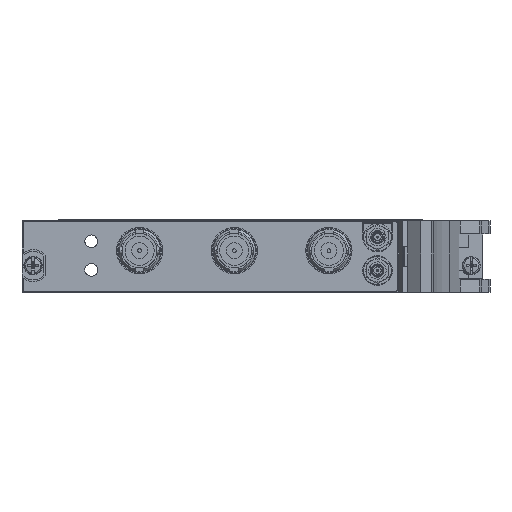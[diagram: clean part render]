
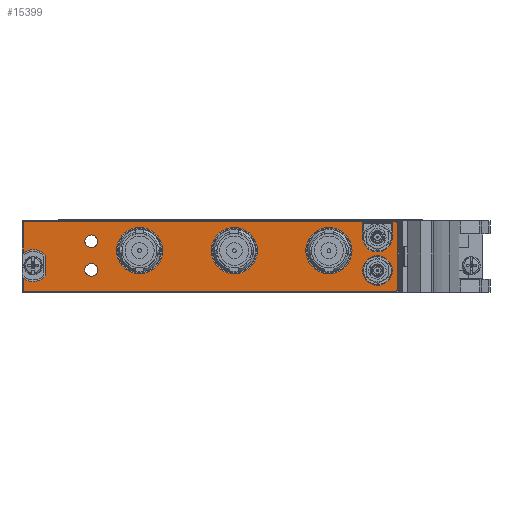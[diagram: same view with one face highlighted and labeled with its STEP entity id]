
A CAD part, left-side view. The second image highlights one B-rep face of the part: STEP entity #15399.
In plain terms, the highlighted planar face has unit normal (-1, 0, 0).
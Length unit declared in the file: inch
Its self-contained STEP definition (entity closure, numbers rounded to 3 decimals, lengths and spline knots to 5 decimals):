
#326=CARTESIAN_POINT('',(-5.677,-1.276,0.514));
#327=DIRECTION('',(-1.,0.,0.));
#328=DIRECTION('',(0.,1.,0.));
#329=AXIS2_PLACEMENT_3D('',#326,#327,#328);
#331=DIRECTION('',(0.,0.,-1.));
#332=VECTOR('',#331,0.171);
#333=CARTESIAN_POINT('',(-5.677,-1.439,0.685));
#334=LINE('',#333,#332);
#335=DIRECTION('',(0.,1.,0.));
#336=VECTOR('',#335,0.0358);
#337=CARTESIAN_POINT('',(-5.677,-1.4748,0.685));
#338=LINE('',#337,#336);
#339=CARTESIAN_POINT('',(-5.677,-1.4748,0.665));
#340=DIRECTION('',(-1.,0.,0.));
#341=DIRECTION('',(0.,-1.,0.));
#342=AXIS2_PLACEMENT_3D('',#339,#340,#341);
#344=DIRECTION('',(0.,0.,1.));
#345=VECTOR('',#344,0.728);
#346=CARTESIAN_POINT('',(-5.677,-1.4948,-0.063));
#347=LINE('',#346,#345);
#348=CARTESIAN_POINT('',(-5.677,-1.4748,-0.063));
#349=DIRECTION('',(-1.,0.,0.));
#350=DIRECTION('',(0.,0.,-1.));
#351=AXIS2_PLACEMENT_3D('',#348,#349,#350);
#353=DIRECTION('',(0.,-1.,0.));
#354=VECTOR('',#353,4.07);
#355=CARTESIAN_POINT('',(-5.677,2.5952,-0.083));
#356=LINE('',#355,#354);
#357=CARTESIAN_POINT('',(-5.677,2.5952,-0.063));
#358=DIRECTION('',(-1.,0.,0.));
#359=DIRECTION('',(0.,1.,0.));
#360=AXIS2_PLACEMENT_3D('',#357,#358,#359);
#362=DIRECTION('',(0.,0.,-1.));
#363=VECTOR('',#362,0.1263);
#364=CARTESIAN_POINT('',(-5.677,2.6152,0.0633));
#365=LINE('',#364,#363);
#366=CARTESIAN_POINT('',(-5.677,2.5072,0.201));
#367=DIRECTION('',(1.,0.,0.));
#368=DIRECTION('',(0.,-0.76,-0.65));
#369=AXIS2_PLACEMENT_3D('',#366,#367,#368);
#371=DIRECTION('',(0.,0.,-1.));
#372=VECTOR('',#371,0.22747);
#373=CARTESIAN_POINT('',(-5.677,2.3742,0.31474));
#374=LINE('',#373,#372);
#375=CARTESIAN_POINT('',(-5.677,2.5072,0.201));
#376=DIRECTION('',(1.,0.,0.));
#377=DIRECTION('',(0.,0.617,0.787));
#378=AXIS2_PLACEMENT_3D('',#375,#376,#377);
#380=DIRECTION('',(0.,0.,-1.));
#381=VECTOR('',#380,0.3263);
#382=CARTESIAN_POINT('',(-5.677,2.6152,0.665));
#383=LINE('',#382,#381);
#384=CARTESIAN_POINT('',(-5.677,2.5952,0.665));
#385=DIRECTION('',(-1.,0.,0.));
#386=DIRECTION('',(0.,0.,1.));
#387=AXIS2_PLACEMENT_3D('',#384,#385,#386);
#389=DIRECTION('',(0.,1.,0.));
#390=VECTOR('',#389,3.7082);
#391=CARTESIAN_POINT('',(-5.677,-1.113,0.685));
#392=LINE('',#391,#390);
#393=DIRECTION('',(0.,0.,-1.));
#394=VECTOR('',#393,0.171);
#395=CARTESIAN_POINT('',(-5.677,-1.113,0.685));
#396=LINE('',#395,#394);
#397=CARTESIAN_POINT('',(-5.677,-0.743,0.36526));
#398=DIRECTION('',(-1.,0.,0.));
#399=DIRECTION('',(0.,1.,0.));
#400=AXIS2_PLACEMENT_3D('',#397,#398,#399);
#402=CARTESIAN_POINT('',(-5.677,-0.743,0.36526));
#403=DIRECTION('',(-1.,0.,0.));
#404=DIRECTION('',(0.,-1.,0.));
#405=AXIS2_PLACEMENT_3D('',#402,#403,#404);
#407=CARTESIAN_POINT('',(-5.677,0.297,0.36526));
#408=DIRECTION('',(-1.,0.,0.));
#409=DIRECTION('',(0.,1.,0.));
#410=AXIS2_PLACEMENT_3D('',#407,#408,#409);
#412=CARTESIAN_POINT('',(-5.677,0.297,0.36526));
#413=DIRECTION('',(-1.,0.,0.));
#414=DIRECTION('',(0.,-1.,0.));
#415=AXIS2_PLACEMENT_3D('',#412,#413,#414);
#417=CARTESIAN_POINT('',(-5.677,1.337,0.36526));
#418=DIRECTION('',(-1.,0.,0.));
#419=DIRECTION('',(0.,1.,0.));
#420=AXIS2_PLACEMENT_3D('',#417,#418,#419);
#422=CARTESIAN_POINT('',(-5.677,1.337,0.36526));
#423=DIRECTION('',(-1.,0.,0.));
#424=DIRECTION('',(0.,-1.,0.));
#425=AXIS2_PLACEMENT_3D('',#422,#423,#424);
#427=CARTESIAN_POINT('',(-5.677,-1.276,0.147));
#428=DIRECTION('',(-1.,0.,0.));
#429=DIRECTION('',(0.,0.,-1.));
#430=AXIS2_PLACEMENT_3D('',#427,#428,#429);
#432=CARTESIAN_POINT('',(-5.677,-1.276,0.147));
#433=DIRECTION('',(-1.,0.,0.));
#434=DIRECTION('',(0.,0.,1.));
#435=AXIS2_PLACEMENT_3D('',#432,#433,#434);
#437=CARTESIAN_POINT('',(-5.677,1.8682,0.154));
#438=DIRECTION('',(-1.,0.,0.));
#439=DIRECTION('',(0.,0.,1.));
#440=AXIS2_PLACEMENT_3D('',#437,#438,#439);
#442=CARTESIAN_POINT('',(-5.677,1.8682,0.154));
#443=DIRECTION('',(-1.,0.,0.));
#444=DIRECTION('',(0.,0.,-1.));
#445=AXIS2_PLACEMENT_3D('',#442,#443,#444);
#447=CARTESIAN_POINT('',(-5.677,1.8682,0.468));
#448=DIRECTION('',(-1.,0.,0.));
#449=DIRECTION('',(0.,0.,1.));
#450=AXIS2_PLACEMENT_3D('',#447,#448,#449);
#452=CARTESIAN_POINT('',(-5.677,1.8682,0.468));
#453=DIRECTION('',(-1.,0.,0.));
#454=DIRECTION('',(0.,0.,-1.));
#455=AXIS2_PLACEMENT_3D('',#452,#453,#454);
#14312=CARTESIAN_POINT('',(-5.677,2.5952,0.685));
#14313=CARTESIAN_POINT('',(-5.677,2.6152,0.665));
#14314=VERTEX_POINT('',#14312);
#14315=VERTEX_POINT('',#14313);
#14316=CARTESIAN_POINT('',(-5.677,2.6152,0.3387));
#14317=VERTEX_POINT('',#14316);
#14318=CARTESIAN_POINT('',(-5.677,2.3742,0.31474));
#14319=VERTEX_POINT('',#14318);
#14320=CARTESIAN_POINT('',(-5.677,2.3742,0.08726));
#14321=VERTEX_POINT('',#14320);
#14322=CARTESIAN_POINT('',(-5.677,2.6152,0.0633));
#14323=VERTEX_POINT('',#14322);
#14324=CARTESIAN_POINT('',(-5.677,2.6152,-0.063));
#14325=VERTEX_POINT('',#14324);
#14326=CARTESIAN_POINT('',(-5.677,2.5952,-0.083));
#14327=VERTEX_POINT('',#14326);
#14328=CARTESIAN_POINT('',(-5.677,-1.4748,-0.083));
#14329=VERTEX_POINT('',#14328);
#14330=CARTESIAN_POINT('',(-5.677,-1.4948,-0.063));
#14331=VERTEX_POINT('',#14330);
#14332=CARTESIAN_POINT('',(-5.677,-1.4948,0.665));
#14333=VERTEX_POINT('',#14332);
#14334=CARTESIAN_POINT('',(-5.677,-1.4748,0.685));
#14335=VERTEX_POINT('',#14334);
#14340=CARTESIAN_POINT('',(-5.677,-0.489,0.36526));
#14341=CARTESIAN_POINT('',(-5.677,-0.997,0.36526));
#14342=VERTEX_POINT('',#14340);
#14343=VERTEX_POINT('',#14341);
#14344=CARTESIAN_POINT('',(-5.677,0.551,0.36526));
#14345=CARTESIAN_POINT('',(-5.677,0.043,0.36526));
#14346=VERTEX_POINT('',#14344);
#14347=VERTEX_POINT('',#14345);
#14348=CARTESIAN_POINT('',(-5.677,1.591,0.36526));
#14349=CARTESIAN_POINT('',(-5.677,1.083,0.36526));
#14350=VERTEX_POINT('',#14348);
#14351=VERTEX_POINT('',#14349);
#14352=CARTESIAN_POINT('',(-5.677,-1.113,0.514));
#14353=CARTESIAN_POINT('',(-5.677,-1.439,0.514));
#14354=VERTEX_POINT('',#14352);
#14355=VERTEX_POINT('',#14353);
#14356=CARTESIAN_POINT('',(-5.677,-1.439,0.685));
#14357=VERTEX_POINT('',#14356);
#14358=CARTESIAN_POINT('',(-5.677,-1.113,0.685));
#14359=VERTEX_POINT('',#14358);
#14360=CARTESIAN_POINT('',(-5.677,-1.276,-0.016));
#14361=CARTESIAN_POINT('',(-5.677,-1.276,0.31));
#14362=VERTEX_POINT('',#14360);
#14363=VERTEX_POINT('',#14361);
#14368=CARTESIAN_POINT('',(-5.677,1.8682,0.224));
#14369=CARTESIAN_POINT('',(-5.677,1.8682,0.084));
#14370=VERTEX_POINT('',#14368);
#14371=VERTEX_POINT('',#14369);
#14372=CARTESIAN_POINT('',(-5.677,1.8682,0.538));
#14373=CARTESIAN_POINT('',(-5.677,1.8682,0.398));
#14374=VERTEX_POINT('',#14372);
#14375=VERTEX_POINT('',#14373);
#15326=CARTESIAN_POINT('',(-5.677,2.5072,0.201));
#15327=DIRECTION('',(-1.,0.,0.));
#15328=DIRECTION('',(0.,0.,1.));
#15329=AXIS2_PLACEMENT_3D('',#15326,#15327,#15328);
#15330=PLANE('',#15329);
#15332=ORIENTED_EDGE('',*,*,#15331,.T.);
#15334=ORIENTED_EDGE('',*,*,#15333,.F.);
#15336=ORIENTED_EDGE('',*,*,#15335,.F.);
#15338=ORIENTED_EDGE('',*,*,#15337,.F.);
#15340=ORIENTED_EDGE('',*,*,#15339,.F.);
#15342=ORIENTED_EDGE('',*,*,#15341,.F.);
#15344=ORIENTED_EDGE('',*,*,#15343,.F.);
#15346=ORIENTED_EDGE('',*,*,#15345,.F.);
#15348=ORIENTED_EDGE('',*,*,#15347,.F.);
#15350=ORIENTED_EDGE('',*,*,#15349,.F.);
#15352=ORIENTED_EDGE('',*,*,#15351,.F.);
#15354=ORIENTED_EDGE('',*,*,#15353,.F.);
#15356=ORIENTED_EDGE('',*,*,#15355,.F.);
#15358=ORIENTED_EDGE('',*,*,#15357,.F.);
#15360=ORIENTED_EDGE('',*,*,#15359,.F.);
#15362=ORIENTED_EDGE('',*,*,#15361,.T.);
#15363=EDGE_LOOP('',(#15332,#15334,#15336,#15338,#15340,#15342,#15344,#15346,
#15348,#15350,#15352,#15354,#15356,#15358,#15360,#15362));
#15364=FACE_OUTER_BOUND('',#15363,.F.);
#15365=ORIENTED_EDGE('',*,*,#15306,.T.);
#15366=ORIENTED_EDGE('',*,*,#15320,.T.);
#15367=EDGE_LOOP('',(#15365,#15366));
#15368=FACE_BOUND('',#15367,.F.);
#15370=ORIENTED_EDGE('',*,*,#15369,.T.);
#15372=ORIENTED_EDGE('',*,*,#15371,.T.);
#15373=EDGE_LOOP('',(#15370,#15372));
#15374=FACE_BOUND('',#15373,.F.);
#15376=ORIENTED_EDGE('',*,*,#15375,.T.);
#15378=ORIENTED_EDGE('',*,*,#15377,.T.);
#15379=EDGE_LOOP('',(#15376,#15378));
#15380=FACE_BOUND('',#15379,.F.);
#15382=ORIENTED_EDGE('',*,*,#15381,.T.);
#15384=ORIENTED_EDGE('',*,*,#15383,.T.);
#15385=EDGE_LOOP('',(#15382,#15384));
#15386=FACE_BOUND('',#15385,.F.);
#15388=ORIENTED_EDGE('',*,*,#15387,.T.);
#15390=ORIENTED_EDGE('',*,*,#15389,.T.);
#15391=EDGE_LOOP('',(#15388,#15390));
#15392=FACE_BOUND('',#15391,.F.);
#15394=ORIENTED_EDGE('',*,*,#15393,.T.);
#15396=ORIENTED_EDGE('',*,*,#15395,.T.);
#15397=EDGE_LOOP('',(#15394,#15396));
#15398=FACE_BOUND('',#15397,.F.);
#15399=ADVANCED_FACE('',(#15364,#15368,#15374,#15380,#15386,#15392,#15398),
#15330,.T.);
#330=CIRCLE('',#329,0.163);
#343=CIRCLE('',#342,0.02);
#352=CIRCLE('',#351,0.02);
#361=CIRCLE('',#360,0.02);
#370=CIRCLE('',#369,0.175);
#379=CIRCLE('',#378,0.175);
#388=CIRCLE('',#387,0.02);
#401=CIRCLE('',#400,0.254);
#406=CIRCLE('',#405,0.254);
#411=CIRCLE('',#410,0.254);
#416=CIRCLE('',#415,0.254);
#421=CIRCLE('',#420,0.254);
#426=CIRCLE('',#425,0.254);
#431=CIRCLE('',#430,0.163);
#436=CIRCLE('',#435,0.163);
#441=CIRCLE('',#440,0.07);
#446=CIRCLE('',#445,0.07);
#451=CIRCLE('',#450,0.07);
#456=CIRCLE('',#455,0.07);
#15306=EDGE_CURVE('',#14342,#14343,#401,.T.);
#15320=EDGE_CURVE('',#14343,#14342,#406,.T.);
#15331=EDGE_CURVE('',#14354,#14355,#330,.T.);
#15333=EDGE_CURVE('',#14357,#14355,#334,.T.);
#15335=EDGE_CURVE('',#14335,#14357,#338,.T.);
#15337=EDGE_CURVE('',#14333,#14335,#343,.T.);
#15339=EDGE_CURVE('',#14331,#14333,#347,.T.);
#15341=EDGE_CURVE('',#14329,#14331,#352,.T.);
#15343=EDGE_CURVE('',#14327,#14329,#356,.T.);
#15345=EDGE_CURVE('',#14325,#14327,#361,.T.);
#15347=EDGE_CURVE('',#14323,#14325,#365,.T.);
#15349=EDGE_CURVE('',#14321,#14323,#370,.T.);
#15351=EDGE_CURVE('',#14319,#14321,#374,.T.);
#15353=EDGE_CURVE('',#14317,#14319,#379,.T.);
#15355=EDGE_CURVE('',#14315,#14317,#383,.T.);
#15357=EDGE_CURVE('',#14314,#14315,#388,.T.);
#15359=EDGE_CURVE('',#14359,#14314,#392,.T.);
#15361=EDGE_CURVE('',#14359,#14354,#396,.T.);
#15369=EDGE_CURVE('',#14346,#14347,#411,.T.);
#15371=EDGE_CURVE('',#14347,#14346,#416,.T.);
#15375=EDGE_CURVE('',#14350,#14351,#421,.T.);
#15377=EDGE_CURVE('',#14351,#14350,#426,.T.);
#15381=EDGE_CURVE('',#14362,#14363,#431,.T.);
#15383=EDGE_CURVE('',#14363,#14362,#436,.T.);
#15387=EDGE_CURVE('',#14370,#14371,#441,.T.);
#15389=EDGE_CURVE('',#14371,#14370,#446,.T.);
#15393=EDGE_CURVE('',#14374,#14375,#451,.T.);
#15395=EDGE_CURVE('',#14375,#14374,#456,.T.);
